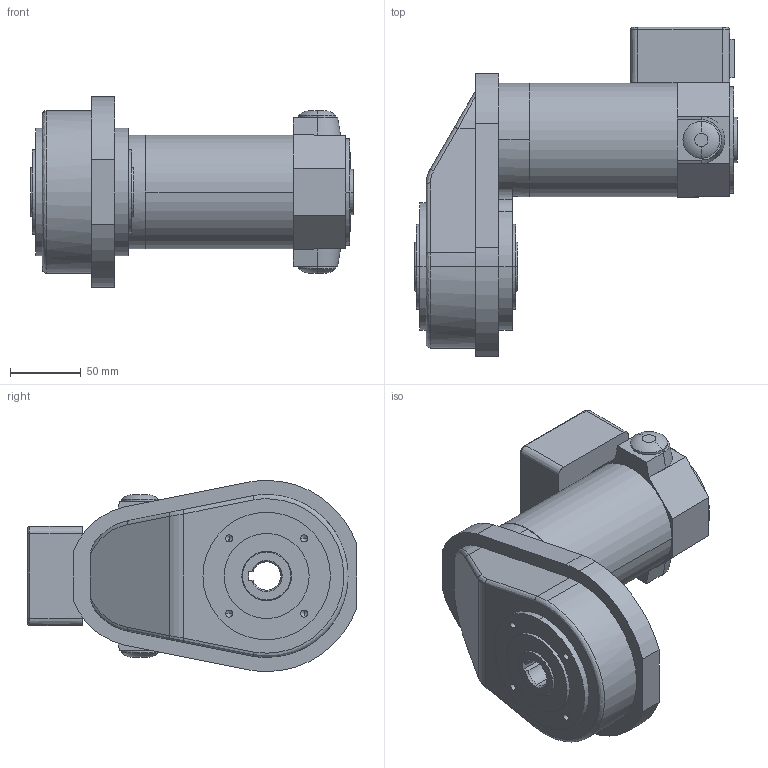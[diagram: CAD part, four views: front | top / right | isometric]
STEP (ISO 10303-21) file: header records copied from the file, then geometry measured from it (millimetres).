
FILE_DESCRIPTION(('OneSpaceDesigner STEP Export'),'2;1');
FILE_NAME('EPG12_KK_FB30.stp','2010-04-13T10:47:55',(''),(''),'OneSpace Designer STEP processor (Jan. 2003) for AP214(CD)(Solid Model)','OneSpace Designer 12.01D 09-Jul-2004 (C) CoCreate Software GmbH','');
FILE_SCHEMA(('AUTOMOTIVE_DESIGN_CC2 {1 2 10303 214 -1 1 5 1}'));
Length unit declared in the file: millimetre
Products named in the file (2): EPG12_KK_FB30
Assembly tree (1 placements, depth 2):
  EPG12_KK_FB30
    EPG12_KK_FB30
Bounding box: 228 x 232.51 x 135 mm (x, y, z)
Volume: 2004447.4 mm3; surface area: 140298.5 mm2
Topology: 1 solids, 1 shells, 194 faces, 466 edges, 288 vertices
Faces by surface type: cylinder 80, plane 59, cone 28, bspline 19, torus 4, extrusion 4
Entity records: 9146 total; most frequent: CARTESIAN_POINT 5175, ORIENTED_EDGE 900, DIRECTION 622, EDGE_CURVE 450, VERTEX_POINT 288, EDGE_LOOP 226, VECTOR 216, LINE 212
